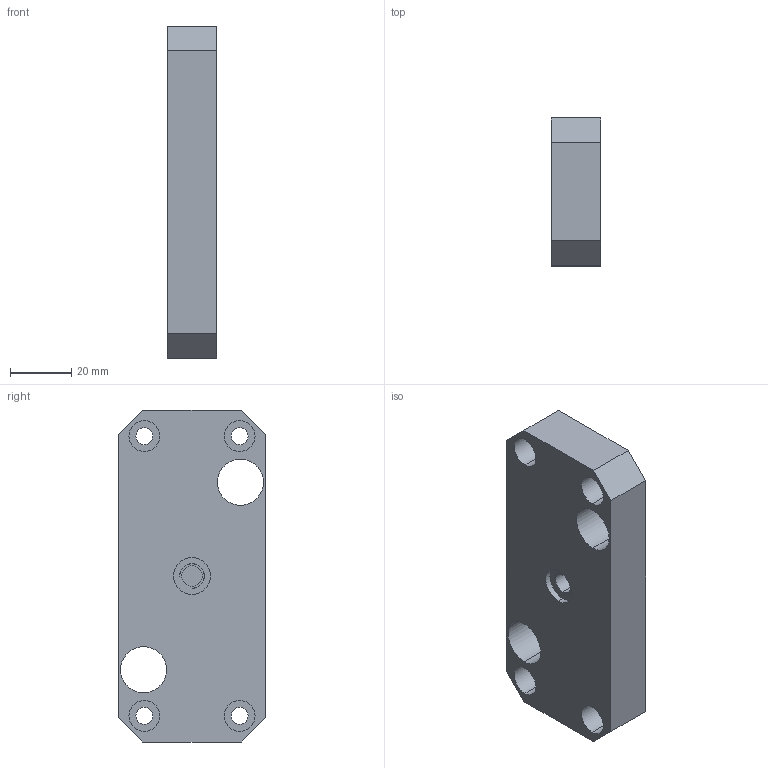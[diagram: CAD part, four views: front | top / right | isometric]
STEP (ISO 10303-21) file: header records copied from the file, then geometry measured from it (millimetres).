
FILE_DESCRIPTION (( 'STEP AP203' ), '1' );
FILE_NAME ('011 Contre Plaque d''Ejection.STEP', '2021-10-27T18:21:56', ( '' ), ( '' ), 'SwSTEP 2.0', 'SolidWorks 2019', '' );
FILE_SCHEMA (( 'CONFIG_CONTROL_DESIGN' ));
Length unit declared in the file: millimetre
Products named in the file (1): 011 Contre Plaque d''Ejection
Bounding box: 16 x 48 x 108 mm (x, y, z)
Volume: 71454.1 mm3; surface area: 17714.4 mm2
Topology: 1 solids, 1 shells, 47 faces, 114 edges, 76 vertices
Faces by surface type: cylinder 28, plane 19
Entity records: 1505 total; most frequent: DIRECTION 266, CARTESIAN_POINT 238, ORIENTED_EDGE 228, EDGE_CURVE 114, AXIS2_PLACEMENT_3D 104, VERTEX_POINT 76, EDGE_LOOP 66, LINE 58
